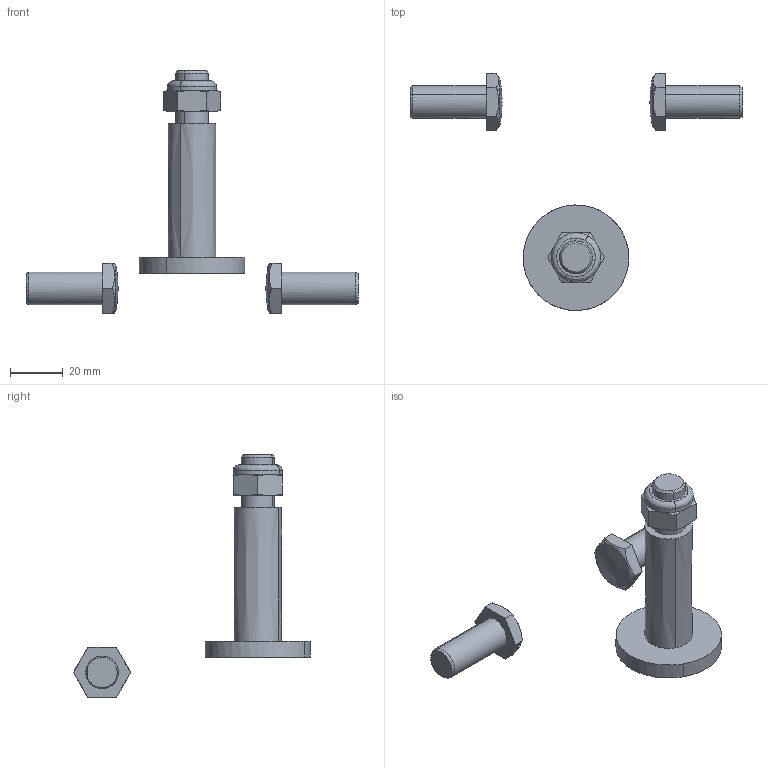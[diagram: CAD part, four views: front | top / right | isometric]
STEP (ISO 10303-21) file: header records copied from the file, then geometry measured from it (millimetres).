
FILE_DESCRIPTION (( 'STEP AP214' ), '1' );
FILE_NAME ('KTU-200WK-GS-50.STEP', '2018-08-30T08:06:32', ( '' ), ( '' ), 'SwSTEP 2.0', 'SolidWorks 2010', '' );
FILE_SCHEMA (( 'AUTOMOTIVE_DESIGN' ));
Length unit declared in the file: millimetre
Products named in the file (1): KTU-200WK-GS-50
Bounding box: 125.8 x 89.85 x 91.95 mm (x, y, z)
Volume: 35052.2 mm3; surface area: 12426.5 mm2
Topology: 4 solids, 4 shells, 62 faces, 164 edges, 110 vertices
Faces by surface type: bspline 34, plane 28
Entity records: 8218 total; most frequent: CARTESIAN_POINT 6928, ORIENTED_EDGE 320, EDGE_CURVE 160, DIRECTION 116, VERTEX_POINT 110, B_SPLINE_CURVE_WITH_KNOTS 102, EDGE_LOOP 68, FACE_OUTER_BOUND 62
